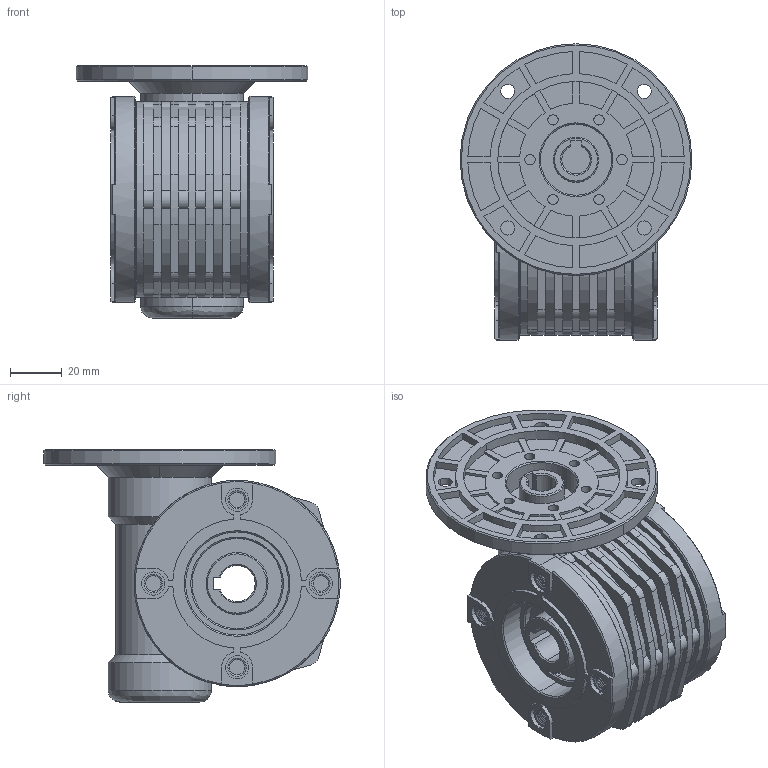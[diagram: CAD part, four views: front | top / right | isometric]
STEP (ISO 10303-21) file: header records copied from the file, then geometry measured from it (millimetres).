
FILE_DESCRIPTION (( 'STEP AP214' ), '1' );
FILE_NAME ('MVF30P 63B14.STEP', '2020-06-26T09:09:18', ( '' ), ( '' ), 'SwSTEP 2.0', 'SolidWorks 2016', '' );
FILE_SCHEMA (( 'AUTOMOTIVE_DESIGN' ));
Length unit declared in the file: millimetre
Products named in the file (1): MVF30P 63B14
Bounding box: 90 x 115 x 98.16 mm (x, y, z)
Volume: 364175.5 mm3; surface area: 86188.2 mm2
Topology: 14 solids, 14 shells, 1217 faces, 2944 edges, 1798 vertices
Faces by surface type: cylinder 399, plane 391, cone 362, bspline 65
Entity records: 49307 total; most frequent: CARTESIAN_POINT 6929, DIRECTION 6281, ORIENTED_EDGE 5888, EDGE_CURVE 2944, AXIS2_PLACEMENT_3D 2350, VERTEX_POINT 1798, VECTOR 1581, LINE 1581
